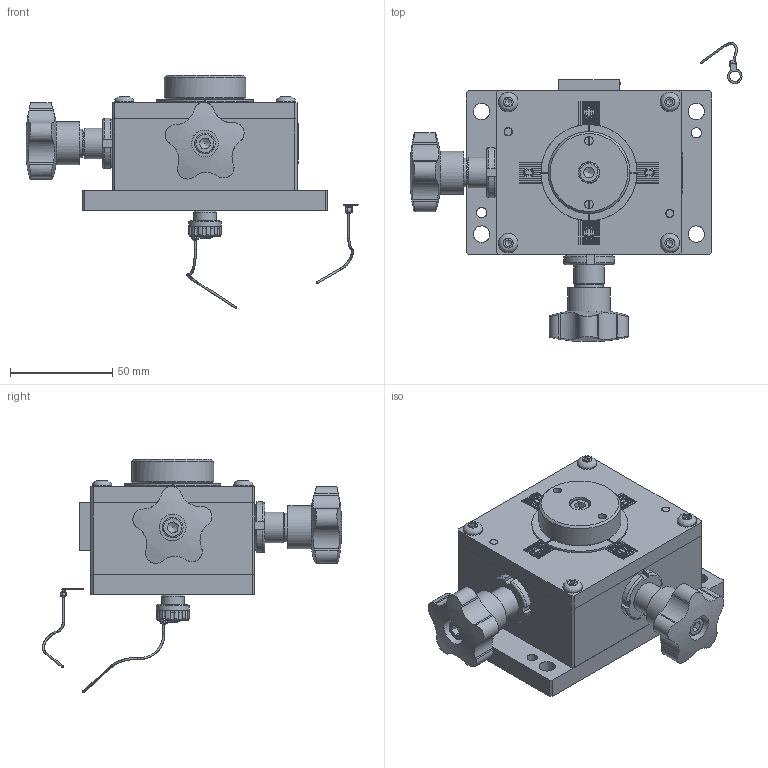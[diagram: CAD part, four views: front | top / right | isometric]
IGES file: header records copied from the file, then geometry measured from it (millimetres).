
Global section: file name: 146.00-SX; native system: Autodesk Inventor 2019; preprocessor: unknown; author: AP; date: 20200220.145815; units: millimetre
Bounding box: 162.33 x 146.23 x 114.09 mm (x, y, z)
Volume: 410427.4 mm3; surface area: 140248.5 mm2
Topology: 48 solids, 48 shells, 1117 faces, 2898 edges, 1976 vertices
Faces by surface type: bspline 1117
